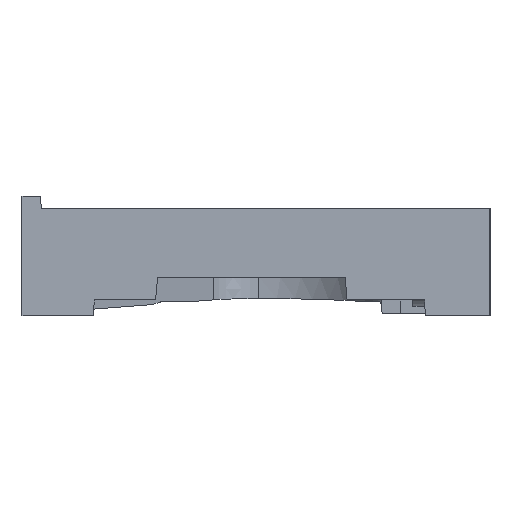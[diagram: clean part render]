
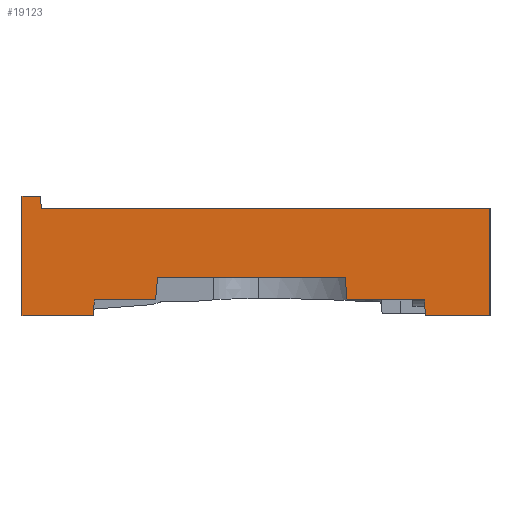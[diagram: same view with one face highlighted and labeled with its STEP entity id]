
A CAD part, left-side view. The second image highlights one B-rep face of the part: STEP entity #19123.
In plain terms, the highlighted planar face has unit normal (-1, 0, -0.009).
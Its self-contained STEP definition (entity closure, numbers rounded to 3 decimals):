
#53 = VERTEX_POINT ( 'NONE', #10205 ) ;
#485 = CARTESIAN_POINT ( 'NONE',  ( 0.012, -84.428, 4.173 ) ) ;
#565 = ORIENTED_EDGE ( 'NONE', *, *, #29842, .F. ) ;
#637 = CARTESIAN_POINT ( 'NONE',  ( 0.095, -59.472, -5.4 ) ) ;
#682 = EDGE_CURVE ( 'NONE', #26441, #22397, #13493, .T. ) ;
#1042 = FACE_OUTER_BOUND ( 'NONE', #22322, .T. ) ;
#1247 = CARTESIAN_POINT ( 'NONE',  ( 0.081, -59.5, -3.8 ) ) ;
#1527 = ORIENTED_EDGE ( 'NONE', *, *, #4087, .T. ) ;
#1539 = DIRECTION ( 'NONE',  ( -0.009, 0., 1. ) ) ;
#2350 = VECTOR ( 'NONE', #17488, 1000. ) ;
#2418 = EDGE_CURVE ( 'NONE', #30759, #18854, #22249, .T. ) ;
#2547 = ORIENTED_EDGE ( 'NONE', *, *, #15751, .T. ) ;
#3278 = VERTEX_POINT ( 'NONE', #14232 ) ;
#3414 = EDGE_CURVE ( 'NONE', #18600, #23948, #9835, .T. ) ;
#3551 = LINE ( 'NONE', #21612, #11365 ) ;
#4085 = LINE ( 'NONE', #27369, #29642 ) ;
#4087 = EDGE_CURVE ( 'NONE', #23219, #13045, #12086, .T. ) ;
#4124 = LINE ( 'NONE', #14254, #23601 ) ;
#4221 = ORIENTED_EDGE ( 'NONE', *, *, #30185, .T. ) ;
#4427 = DIRECTION ( 'NONE',  ( 0., -1., 0. ) ) ;
#4615 = CARTESIAN_POINT ( 'NONE',  ( -0.01, -52.2, 6.7 ) ) ;
#4626 = LINE ( 'NONE', #25207, #28165 ) ;
#4655 = VECTOR ( 'NONE', #5050, 1000. ) ;
#4836 = CARTESIAN_POINT ( 'NONE',  ( 0.061, -76.2, -1.5 ) ) ;
#5034 = ORIENTED_EDGE ( 'NONE', *, *, #682, .F. ) ;
#5050 = DIRECTION ( 'NONE',  ( -0.009, 0., 1. ) ) ;
#5938 = CARTESIAN_POINT ( 'NONE',  ( 0.081, -85.125, -3.8 ) ) ;
#6042 = CARTESIAN_POINT ( 'NONE',  ( 0.095, -99.6, -5.4 ) ) ;
#6744 = DIRECTION ( 'NONE',  ( 0., 1., 0. ) ) ;
#6781 = ORIENTED_EDGE ( 'NONE', *, *, #20231, .F. ) ;
#6834 = DIRECTION ( 'NONE',  ( -0.009, 0.017, 1. ) ) ;
#6918 = LINE ( 'NONE', #22931, #4655 ) ;
#7133 = CARTESIAN_POINT ( 'NONE',  ( 0., -99.6, 5.5 ) ) ;
#7579 = ORIENTED_EDGE ( 'NONE', *, *, #15166, .F. ) ;
#7627 = CARTESIAN_POINT ( 'NONE',  ( 0., -99.6, 5.5 ) ) ;
#8019 = CARTESIAN_POINT ( 'NONE',  ( 0.081, -93., -3.799 ) ) ;
#8386 = CARTESIAN_POINT ( 'NONE',  ( 0., -99.6, 5.5 ) ) ;
#8525 = LINE ( 'NONE', #8019, #31687 ) ;
#8854 = DIRECTION ( 'NONE',  ( 0.009, 0.017, -1. ) ) ;
#8967 = DIRECTION ( 'NONE',  ( 0., 1., 0. ) ) ;
#8997 = VECTOR ( 'NONE', #8967, 1000. ) ;
#9835 = LINE ( 'NONE', #7627, #14001 ) ;
#10171 = CARTESIAN_POINT ( 'NONE',  ( 0.081, -65.735, -3.8 ) ) ;
#10190 = AXIS2_PLACEMENT_3D ( 'NONE', #7133, #17080, #1539 ) ;
#10205 = CARTESIAN_POINT ( 'NONE',  ( 0.095, -52.2, -5.4 ) ) ;
#10272 = CARTESIAN_POINT ( 'NONE',  ( 0.095, -93.028, -5.4 ) ) ;
#11365 = VECTOR ( 'NONE', #6744, 1000. ) ;
#11481 = VECTOR ( 'NONE', #8854, 1000. ) ;
#12086 = LINE ( 'NONE', #22374, #2350 ) ;
#13045 = VERTEX_POINT ( 'NONE', #23905 ) ;
#13077 = ORIENTED_EDGE ( 'NONE', *, *, #30444, .T. ) ;
#13493 = LINE ( 'NONE', #485, #31649 ) ;
#14001 = VECTOR ( 'NONE', #25490, 1000. ) ;
#14220 = CARTESIAN_POINT ( 'NONE',  ( -0.006, -59.674, 6.197 ) ) ;
#14232 = CARTESIAN_POINT ( 'NONE',  ( 0.081, -93., -3.8 ) ) ;
#14254 = CARTESIAN_POINT ( 'NONE',  ( 0.035, -54.201, 1.468 ) ) ;
#14972 = LINE ( 'NONE', #4836, #17093 ) ;
#15166 = EDGE_CURVE ( 'NONE', #23219, #29014, #19081, .T. ) ;
#15327 = EDGE_CURVE ( 'NONE', #53, #18854, #6918, .T. ) ;
#15596 = DIRECTION ( 'NONE',  ( 0., 1., 0. ) ) ;
#15728 = CARTESIAN_POINT ( 'NONE',  ( -0.01, -54.109, 6.7 ) ) ;
#15748 = ORIENTED_EDGE ( 'NONE', *, *, #3414, .F. ) ;
#15751 = EDGE_CURVE ( 'NONE', #13045, #22397, #14972, .T. ) ;
#17080 = DIRECTION ( 'NONE',  ( -1., 0., -0.009 ) ) ;
#17093 = VECTOR ( 'NONE', #22395, 1000. ) ;
#17488 = DIRECTION ( 'NONE',  ( -0.009, -0.087, 0.996 ) ) ;
#18600 = VERTEX_POINT ( 'NONE', #8386 ) ;
#18795 = DIRECTION ( 'NONE',  ( 0.009, -0.017, -1. ) ) ;
#18828 = VECTOR ( 'NONE', #15596, 1000. ) ;
#18854 = VERTEX_POINT ( 'NONE', #4615 ) ;
#19081 = LINE ( 'NONE', #31917, #8997 ) ;
#19123 = ADVANCED_FACE ( 'NONE', ( #1042 ), #32106, .T. ) ;
#20054 = EDGE_CURVE ( 'NONE', #30022, #53, #28419, .T. ) ;
#20231 = EDGE_CURVE ( 'NONE', #30210, #18600, #4085, .T. ) ;
#21612 = CARTESIAN_POINT ( 'NONE',  ( 0.095, -170.224, -5.4 ) ) ;
#21750 = CARTESIAN_POINT ( 'NONE',  ( -0.01, -99.6, 6.7 ) ) ;
#22145 = ORIENTED_EDGE ( 'NONE', *, *, #25940, .F. ) ;
#22249 = LINE ( 'NONE', #21750, #22401 ) ;
#22322 = EDGE_LOOP ( 'NONE', ( #4221, #26861, #31192, #24675, #33402, #7579, #1527, #2547, #5034, #22145, #13077, #565, #15748, #6781 ) ) ;
#22374 = CARTESIAN_POINT ( 'NONE',  ( 0.066, -65.89, -2.02 ) ) ;
#22395 = DIRECTION ( 'NONE',  ( 0., -1., 0. ) ) ;
#22397 = VERTEX_POINT ( 'NONE', #26485 ) ;
#22401 = VECTOR ( 'NONE', #24110, 1000. ) ;
#22931 = CARTESIAN_POINT ( 'NONE',  ( 0.048, -52.2, 0. ) ) ;
#23219 = VERTEX_POINT ( 'NONE', #10171 ) ;
#23601 = VECTOR ( 'NONE', #6834, 1000. ) ;
#23859 = DIRECTION ( 'NONE',  ( 0., 1., 0. ) ) ;
#23905 = CARTESIAN_POINT ( 'NONE',  ( 0.061, -65.936, -1.5 ) ) ;
#23948 = VERTEX_POINT ( 'NONE', #6042 ) ;
#24110 = DIRECTION ( 'NONE',  ( 0., 1., 0. ) ) ;
#24675 = ORIENTED_EDGE ( 'NONE', *, *, #20054, .F. ) ;
#25207 = CARTESIAN_POINT ( 'NONE',  ( 0.081, 0., -3.8 ) ) ;
#25490 = DIRECTION ( 'NONE',  ( 0.009, 0., -1. ) ) ;
#25940 = EDGE_CURVE ( 'NONE', #3278, #26441, #4626, .T. ) ;
#26258 = EDGE_CURVE ( 'NONE', #29014, #30022, #27041, .T. ) ;
#26441 = VERTEX_POINT ( 'NONE', #5938 ) ;
#26485 = CARTESIAN_POINT ( 'NONE',  ( 0.061, -84.924, -1.5 ) ) ;
#26486 = DIRECTION ( 'NONE',  ( -0.009, 0.087, 0.996 ) ) ;
#26861 = ORIENTED_EDGE ( 'NONE', *, *, #2418, .T. ) ;
#27041 = LINE ( 'NONE', #14220, #11481 ) ;
#27369 = CARTESIAN_POINT ( 'NONE',  ( 0., -99.6, 5.5 ) ) ;
#28165 = VECTOR ( 'NONE', #23859, 1000. ) ;
#28419 = LINE ( 'NONE', #28757, #18828 ) ;
#28757 = CARTESIAN_POINT ( 'NONE',  ( 0.095, -170.224, -5.4 ) ) ;
#29014 = VERTEX_POINT ( 'NONE', #1247 ) ;
#29642 = VECTOR ( 'NONE', #4427, 1000. ) ;
#29842 = EDGE_CURVE ( 'NONE', #23948, #32681, #3551, .T. ) ;
#30022 = VERTEX_POINT ( 'NONE', #637 ) ;
#30122 = CARTESIAN_POINT ( 'NONE',  ( 0., -54.13, 5.5 ) ) ;
#30185 = EDGE_CURVE ( 'NONE', #30210, #30759, #4124, .T. ) ;
#30210 = VERTEX_POINT ( 'NONE', #30122 ) ;
#30444 = EDGE_CURVE ( 'NONE', #3278, #32681, #8525, .T. ) ;
#30759 = VERTEX_POINT ( 'NONE', #15728 ) ;
#31192 = ORIENTED_EDGE ( 'NONE', *, *, #15327, .F. ) ;
#31649 = VECTOR ( 'NONE', #26486, 1000. ) ;
#31687 = VECTOR ( 'NONE', #18795, 1000. ) ;
#31917 = CARTESIAN_POINT ( 'NONE',  ( 0.081, 0., -3.8 ) ) ;
#32106 = PLANE ( 'NONE',  #10190 ) ;
#32681 = VERTEX_POINT ( 'NONE', #10272 ) ;
#33402 = ORIENTED_EDGE ( 'NONE', *, *, #26258, .F. ) ;
